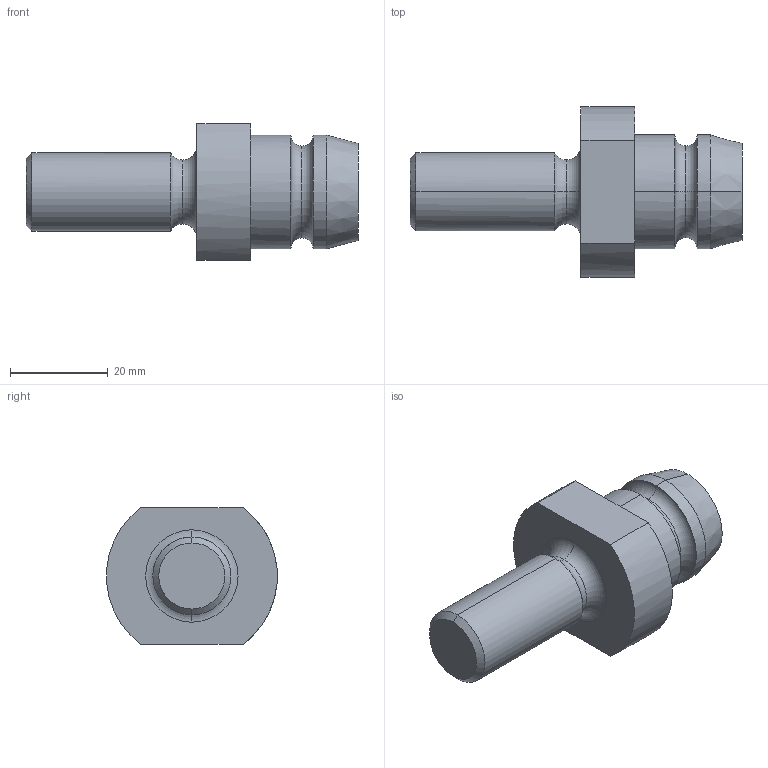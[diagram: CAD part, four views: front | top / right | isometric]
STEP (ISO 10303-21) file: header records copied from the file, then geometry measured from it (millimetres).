
FILE_DESCRIPTION(('CATIA V5 STEP Exchange'),'2;1');
FILE_NAME('C:\Users\Utente\Desktop\IO LAVORO\3D X SITO CF\X SITO\PLASTICA\AGS\AGS3411M16.stp','2021-02-21T19:34:04+00:00',('none'),('none'),'CATIA Version 5 Release 20 GA (IN-10)','CATIA V5 STEP AP203','none');
FILE_SCHEMA(('CONFIG_CONTROL_DESIGN'));
Length unit declared in the file: millimetre
Products named in the file (1): AGS3411M16
Bounding box: 68 x 34.93 x 28 mm (x, y, z)
Volume: 24723.8 mm3; surface area: 6222.1 mm2
Topology: 1 solids, 1 shells, 26 faces, 70 edges, 48 vertices
Faces by surface type: cylinder 8, torus 8, plane 6, cone 4
Entity records: 920 total; most frequent: CARTESIAN_POINT 235, ORIENTED_EDGE 140, DIRECTION 113, AXIS2_PLACEMENT_3D 70, EDGE_CURVE 70, VERTEX_POINT 48, CIRCLE 43, EDGE_LOOP 28
